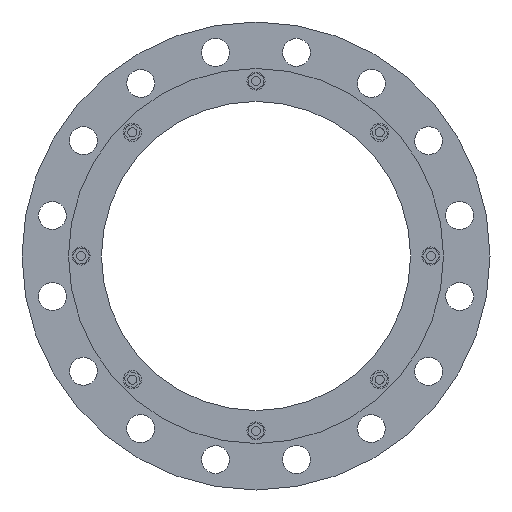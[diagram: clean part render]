
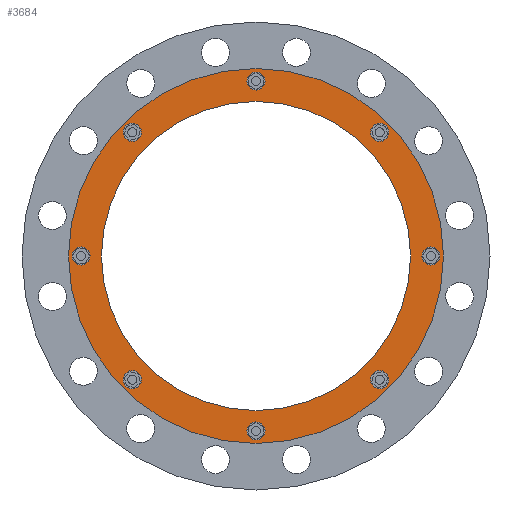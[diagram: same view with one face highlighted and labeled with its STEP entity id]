
A CAD part, front view. The second image highlights one B-rep face of the part: STEP entity #3684.
In plain terms, the highlighted planar face has unit normal (0, -1, 0).
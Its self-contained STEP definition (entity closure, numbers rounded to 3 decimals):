
#917=CARTESIAN_POINT('',(0.,-92.452,0.));
#918=DIRECTION('',(0.,-1.,0.));
#919=DIRECTION('',(1.,0.,0.));
#920=AXIS2_PLACEMENT_3D('',#917,#918,#919);
#922=CARTESIAN_POINT('',(0.,-92.452,0.));
#923=DIRECTION('',(0.,1.,0.));
#924=DIRECTION('',(1.,0.,0.));
#925=AXIS2_PLACEMENT_3D('',#922,#923,#924);
#927=CARTESIAN_POINT('',(231.75,-92.452,0.));
#928=DIRECTION('',(0.,-1.,0.));
#929=DIRECTION('',(0.,0.,-1.));
#930=AXIS2_PLACEMENT_3D('',#927,#928,#929);
#932=CARTESIAN_POINT('',(231.75,-92.452,0.));
#933=DIRECTION('',(0.,-1.,0.));
#934=DIRECTION('',(0.,0.,1.));
#935=AXIS2_PLACEMENT_3D('',#932,#933,#934);
#937=CARTESIAN_POINT('',(163.872,-92.452,163.872));
#938=DIRECTION('',(0.,-1.,0.));
#939=DIRECTION('',(0.707,0.,-0.707));
#940=AXIS2_PLACEMENT_3D('',#937,#938,#939);
#942=CARTESIAN_POINT('',(163.872,-92.452,163.872));
#943=DIRECTION('',(0.,-1.,0.));
#944=DIRECTION('',(-0.707,0.,0.707));
#945=AXIS2_PLACEMENT_3D('',#942,#943,#944);
#947=CARTESIAN_POINT('',(0.,-92.452,231.75));
#948=DIRECTION('',(0.,-1.,0.));
#949=DIRECTION('',(1.,0.,0.));
#950=AXIS2_PLACEMENT_3D('',#947,#948,#949);
#952=CARTESIAN_POINT('',(0.,-92.452,231.75));
#953=DIRECTION('',(0.,-1.,0.));
#954=DIRECTION('',(-1.,0.,0.));
#955=AXIS2_PLACEMENT_3D('',#952,#953,#954);
#957=CARTESIAN_POINT('',(-163.872,-92.452,163.872));
#958=DIRECTION('',(0.,-1.,0.));
#959=DIRECTION('',(0.707,0.,0.707));
#960=AXIS2_PLACEMENT_3D('',#957,#958,#959);
#962=CARTESIAN_POINT('',(-163.872,-92.452,163.872));
#963=DIRECTION('',(0.,-1.,0.));
#964=DIRECTION('',(-0.707,0.,-0.707));
#965=AXIS2_PLACEMENT_3D('',#962,#963,#964);
#967=CARTESIAN_POINT('',(-231.75,-92.452,0.));
#968=DIRECTION('',(0.,-1.,0.));
#969=DIRECTION('',(0.,0.,1.));
#970=AXIS2_PLACEMENT_3D('',#967,#968,#969);
#972=CARTESIAN_POINT('',(-231.75,-92.452,0.));
#973=DIRECTION('',(0.,-1.,0.));
#974=DIRECTION('',(0.,0.,-1.));
#975=AXIS2_PLACEMENT_3D('',#972,#973,#974);
#977=CARTESIAN_POINT('',(-163.872,-92.452,-163.872));
#978=DIRECTION('',(0.,-1.,0.));
#979=DIRECTION('',(-0.707,0.,0.707));
#980=AXIS2_PLACEMENT_3D('',#977,#978,#979);
#982=CARTESIAN_POINT('',(-163.872,-92.452,-163.872));
#983=DIRECTION('',(0.,-1.,0.));
#984=DIRECTION('',(0.707,0.,-0.707));
#985=AXIS2_PLACEMENT_3D('',#982,#983,#984);
#987=CARTESIAN_POINT('',(0.,-92.452,-231.75));
#988=DIRECTION('',(0.,-1.,0.));
#989=DIRECTION('',(-1.,0.,0.));
#990=AXIS2_PLACEMENT_3D('',#987,#988,#989);
#992=CARTESIAN_POINT('',(0.,-92.452,-231.75));
#993=DIRECTION('',(0.,-1.,0.));
#994=DIRECTION('',(1.,0.,0.));
#995=AXIS2_PLACEMENT_3D('',#992,#993,#994);
#997=CARTESIAN_POINT('',(163.872,-92.452,-163.872));
#998=DIRECTION('',(0.,-1.,0.));
#999=DIRECTION('',(-0.707,0.,-0.707));
#1000=AXIS2_PLACEMENT_3D('',#997,#998,#999);
#1002=CARTESIAN_POINT('',(163.872,-92.452,-163.872));
#1003=DIRECTION('',(0.,-1.,0.));
#1004=DIRECTION('',(0.707,0.,0.707));
#1005=AXIS2_PLACEMENT_3D('',#1002,#1003,#1004);
#1007=CARTESIAN_POINT('',(0.,-92.452,0.));
#1008=DIRECTION('',(0.,1.,0.));
#1009=DIRECTION('',(1.,0.,0.));
#1010=AXIS2_PLACEMENT_3D('',#1007,#1008,#1009);
#1020=CARTESIAN_POINT('',(0.,-92.452,0.));
#1021=DIRECTION('',(0.,-1.,0.));
#1022=DIRECTION('',(1.,0.,0.));
#1023=AXIS2_PLACEMENT_3D('',#1020,#1021,#1022);
#2397=CARTESIAN_POINT('',(248.35,-92.452,0.));
#2399=VERTEX_POINT('',#2397);
#2400=CARTESIAN_POINT('',(204.75,-92.452,0.));
#2402=VERTEX_POINT('',#2400);
#2409=CARTESIAN_POINT('',(-248.35,-92.452,0.));
#2411=VERTEX_POINT('',#2409);
#2412=CARTESIAN_POINT('',(-204.75,-92.452,0.));
#2414=VERTEX_POINT('',#2412);
#2451=CARTESIAN_POINT('',(231.75,-92.452,-12.));
#2452=CARTESIAN_POINT('',(231.75,-92.452,12.));
#2453=VERTEX_POINT('',#2451);
#2454=VERTEX_POINT('',#2452);
#2500=CARTESIAN_POINT('',(172.357,-92.452,155.387));
#2501=VERTEX_POINT('',#2500);
#2502=CARTESIAN_POINT('',(155.387,-92.452,172.357));
#2503=VERTEX_POINT('',#2502);
#2544=CARTESIAN_POINT('',(12.,-92.452,231.75));
#2545=VERTEX_POINT('',#2544);
#2546=CARTESIAN_POINT('',(-12.,-92.452,231.75));
#2547=VERTEX_POINT('',#2546);
#2588=CARTESIAN_POINT('',(-155.387,-92.452,172.357));
#2589=VERTEX_POINT('',#2588);
#2590=CARTESIAN_POINT('',(-172.357,-92.452,155.387));
#2591=VERTEX_POINT('',#2590);
#2632=CARTESIAN_POINT('',(-231.75,-92.452,12.));
#2633=VERTEX_POINT('',#2632);
#2634=CARTESIAN_POINT('',(-231.75,-92.452,-12.));
#2635=VERTEX_POINT('',#2634);
#2676=CARTESIAN_POINT('',(-172.357,-92.452,-155.387));
#2677=VERTEX_POINT('',#2676);
#2678=CARTESIAN_POINT('',(-155.387,-92.452,-172.357));
#2679=VERTEX_POINT('',#2678);
#2720=CARTESIAN_POINT('',(-12.,-92.452,-231.75));
#2721=VERTEX_POINT('',#2720);
#2722=CARTESIAN_POINT('',(12.,-92.452,-231.75));
#2723=VERTEX_POINT('',#2722);
#2764=CARTESIAN_POINT('',(155.387,-92.452,-172.357));
#2765=VERTEX_POINT('',#2764);
#2766=CARTESIAN_POINT('',(172.357,-92.452,-155.387));
#2767=VERTEX_POINT('',#2766);
#3621=CARTESIAN_POINT('',(0.,-92.452,0.));
#3622=DIRECTION('',(0.,1.,0.));
#3623=DIRECTION('',(-1.,0.,0.));
#3624=AXIS2_PLACEMENT_3D('',#3621,#3622,#3623);
#3625=PLANE('',#3624);
#3627=ORIENTED_EDGE('',*,*,#3626,.F.);
#3629=ORIENTED_EDGE('',*,*,#3628,.T.);
#3630=EDGE_LOOP('',(#3627,#3629));
#3631=FACE_OUTER_BOUND('',#3630,.F.);
#3633=ORIENTED_EDGE('',*,*,#3632,.F.);
#3635=ORIENTED_EDGE('',*,*,#3634,.T.);
#3636=EDGE_LOOP('',(#3633,#3635));
#3637=FACE_BOUND('',#3636,.F.);
#3639=ORIENTED_EDGE('',*,*,#3638,.T.);
#3641=ORIENTED_EDGE('',*,*,#3640,.T.);
#3642=EDGE_LOOP('',(#3639,#3641));
#3643=FACE_BOUND('',#3642,.F.);
#3645=ORIENTED_EDGE('',*,*,#3644,.T.);
#3647=ORIENTED_EDGE('',*,*,#3646,.T.);
#3648=EDGE_LOOP('',(#3645,#3647));
#3649=FACE_BOUND('',#3648,.F.);
#3651=ORIENTED_EDGE('',*,*,#3650,.T.);
#3653=ORIENTED_EDGE('',*,*,#3652,.T.);
#3654=EDGE_LOOP('',(#3651,#3653));
#3655=FACE_BOUND('',#3654,.F.);
#3657=ORIENTED_EDGE('',*,*,#3656,.T.);
#3659=ORIENTED_EDGE('',*,*,#3658,.T.);
#3660=EDGE_LOOP('',(#3657,#3659));
#3661=FACE_BOUND('',#3660,.F.);
#3663=ORIENTED_EDGE('',*,*,#3662,.T.);
#3665=ORIENTED_EDGE('',*,*,#3664,.T.);
#3666=EDGE_LOOP('',(#3663,#3665));
#3667=FACE_BOUND('',#3666,.F.);
#3669=ORIENTED_EDGE('',*,*,#3668,.T.);
#3671=ORIENTED_EDGE('',*,*,#3670,.T.);
#3672=EDGE_LOOP('',(#3669,#3671));
#3673=FACE_BOUND('',#3672,.F.);
#3674=ORIENTED_EDGE('',*,*,#3603,.T.);
#3675=ORIENTED_EDGE('',*,*,#3614,.T.);
#3676=EDGE_LOOP('',(#3674,#3675));
#3677=FACE_BOUND('',#3676,.F.);
#3679=ORIENTED_EDGE('',*,*,#3678,.T.);
#3681=ORIENTED_EDGE('',*,*,#3680,.T.);
#3682=EDGE_LOOP('',(#3679,#3681));
#3683=FACE_BOUND('',#3682,.F.);
#3684=ADVANCED_FACE('',(#3631,#3637,#3643,#3649,#3655,#3661,#3667,#3673,#3677,
#3683),#3625,.F.);
#921=CIRCLE('',#920,248.35);
#926=CIRCLE('',#925,248.35);
#931=CIRCLE('',#930,12.);
#936=CIRCLE('',#935,12.);
#941=CIRCLE('',#940,12.);
#946=CIRCLE('',#945,12.);
#951=CIRCLE('',#950,12.);
#956=CIRCLE('',#955,12.);
#961=CIRCLE('',#960,12.);
#966=CIRCLE('',#965,12.);
#971=CIRCLE('',#970,12.);
#976=CIRCLE('',#975,12.);
#981=CIRCLE('',#980,12.);
#986=CIRCLE('',#985,12.);
#991=CIRCLE('',#990,12.);
#996=CIRCLE('',#995,12.);
#1001=CIRCLE('',#1000,12.);
#1006=CIRCLE('',#1005,12.);
#1011=CIRCLE('',#1010,204.75);
#1024=CIRCLE('',#1023,204.75);
#3603=EDGE_CURVE('',#2721,#2723,#991,.T.);
#3614=EDGE_CURVE('',#2723,#2721,#996,.T.);
#3626=EDGE_CURVE('',#2399,#2411,#921,.T.);
#3628=EDGE_CURVE('',#2399,#2411,#926,.T.);
#3632=EDGE_CURVE('',#2402,#2414,#1011,.T.);
#3634=EDGE_CURVE('',#2402,#2414,#1024,.T.);
#3638=EDGE_CURVE('',#2453,#2454,#931,.T.);
#3640=EDGE_CURVE('',#2454,#2453,#936,.T.);
#3644=EDGE_CURVE('',#2501,#2503,#941,.T.);
#3646=EDGE_CURVE('',#2503,#2501,#946,.T.);
#3650=EDGE_CURVE('',#2545,#2547,#951,.T.);
#3652=EDGE_CURVE('',#2547,#2545,#956,.T.);
#3656=EDGE_CURVE('',#2589,#2591,#961,.T.);
#3658=EDGE_CURVE('',#2591,#2589,#966,.T.);
#3662=EDGE_CURVE('',#2633,#2635,#971,.T.);
#3664=EDGE_CURVE('',#2635,#2633,#976,.T.);
#3668=EDGE_CURVE('',#2677,#2679,#981,.T.);
#3670=EDGE_CURVE('',#2679,#2677,#986,.T.);
#3678=EDGE_CURVE('',#2765,#2767,#1001,.T.);
#3680=EDGE_CURVE('',#2767,#2765,#1006,.T.);
